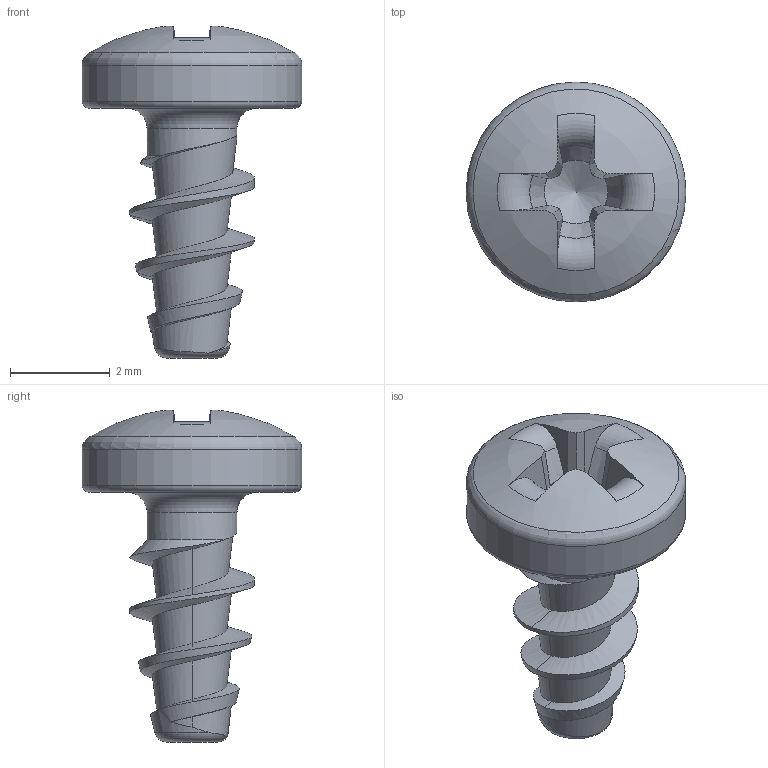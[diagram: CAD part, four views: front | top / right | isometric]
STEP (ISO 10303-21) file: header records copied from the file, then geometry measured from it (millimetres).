
FILE_DESCRIPTION(/* description */ (''),/* implementation_level */ '2;1');
FILE_NAME(/* name */ 'KN1032-Neu-STS-25x5-H1.step',/* time_stamp */ '2018-08-15T15:24:02+02:00',/* author */ (''),/* organization */ (''),/* preprocessor_version */ 'ST-DEVELOPER v16',/* originating_system */ 'SIEMENS PLM Software NX 10.0',/* authorisation */ '');
FILE_SCHEMA (('AUTOMOTIVE_DESIGN { 1 0 10303 214 3 1 1 1 }'));
Length unit declared in the file: millimetre
Products named in the file (1): KN1032-STS-25x5-H1
Bounding box: 4.4 x 4.4 x 6.65 mm (x, y, z)
Volume: 29.9 mm3; surface area: 85.2 mm2
Topology: 1 solids, 1 shells, 51 faces, 137 edges, 88 vertices
Faces by surface type: plane 18, bspline 14, torus 8, cone 7, cylinder 3, sphere 1
Full cylindrical faces by diameter (mm): 1.8 x1, 4.4 x1
Entity records: 2433 total; most frequent: CARTESIAN_POINT 1331, ORIENTED_EDGE 246, DIRECTION 177, EDGE_CURVE 123, VERTEX_POINT 83, AXIS2_PLACEMENT_3D 77, B_SPLINE_CURVE_WITH_KNOTS 61, EDGE_LOOP 59
